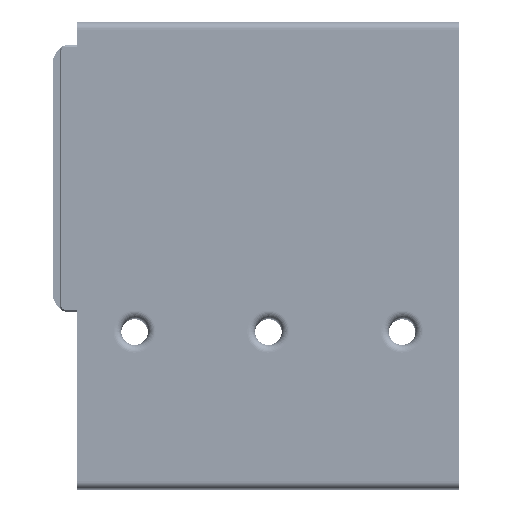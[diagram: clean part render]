
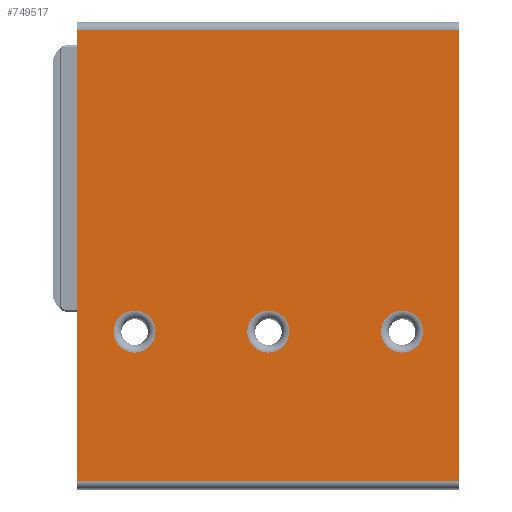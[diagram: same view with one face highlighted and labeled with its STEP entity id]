
A CAD part, top view. The second image highlights one B-rep face of the part: STEP entity #749517.
In plain terms, the highlighted planar face has unit normal (0, 0, 1) as drawn and (1, 0, 0) by its records, which use the part's own axes.
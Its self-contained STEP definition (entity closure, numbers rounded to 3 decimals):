
#745602 = VERTEX_POINT('',#745603);
#745603 = CARTESIAN_POINT('',(82.5,84.,0.));
#745610 = EDGE_CURVE('',#745611,#745602,#745613,.T.);
#745611 = VERTEX_POINT('',#745612);
#745612 = CARTESIAN_POINT('',(82.5,-34.166,0.));
#745613 = LINE('',#745614,#745615);
#745614 = CARTESIAN_POINT('',(82.5,-36.166,0.));
#745615 = VECTOR('',#745616,1.);
#745616 = DIRECTION('',(0.,1.,0.));
#745723 = VERTEX_POINT('',#745724);
#745724 = CARTESIAN_POINT('',(82.5,84.,100.));
#745731 = EDGE_CURVE('',#745602,#745723,#745732,.T.);
#745732 = LINE('',#745733,#745734);
#745733 = CARTESIAN_POINT('',(82.5,84.,0.));
#745734 = VECTOR('',#745735,1.);
#745735 = DIRECTION('',(0.,0.,1.));
#746818 = VERTEX_POINT('',#746819);
#746819 = CARTESIAN_POINT('',(82.5,-34.166,100.));
#746826 = EDGE_CURVE('',#746818,#745723,#746827,.T.);
#746827 = LINE('',#746828,#746829);
#746828 = CARTESIAN_POINT('',(82.5,-36.166,100.));
#746829 = VECTOR('',#746830,1.);
#746830 = DIRECTION('',(0.,1.,0.));
#749517 = ADVANCED_FACE('',(#749518,#749529,#749540,#749551),#749562,.F.
  );
#749518 = FACE_BOUND('',#749519,.F.);
#749519 = EDGE_LOOP('',(#749520));
#749520 = ORIENTED_EDGE('',*,*,#749521,.F.);
#749521 = EDGE_CURVE('',#749522,#749522,#749524,.T.);
#749522 = VERTEX_POINT('',#749523);
#749523 = CARTESIAN_POINT('',(82.5,-0.5,85.));
#749524 = CIRCLE('',#749525,5.5);
#749525 = AXIS2_PLACEMENT_3D('',#749526,#749527,#749528);
#749526 = CARTESIAN_POINT('',(82.5,5.,85.));
#749527 = DIRECTION('',(-1.,0.,0.));
#749528 = DIRECTION('',(0.,-1.,0.));
#749529 = FACE_BOUND('',#749530,.F.);
#749530 = EDGE_LOOP('',(#749531,#749532,#749538,#749539));
#749531 = ORIENTED_EDGE('',*,*,#745610,.F.);
#749532 = ORIENTED_EDGE('',*,*,#749533,.T.);
#749533 = EDGE_CURVE('',#745611,#746818,#749534,.T.);
#749534 = LINE('',#749535,#749536);
#749535 = CARTESIAN_POINT('',(82.5,-34.166,0.));
#749536 = VECTOR('',#749537,1.);
#749537 = DIRECTION('',(0.,0.,1.));
#749538 = ORIENTED_EDGE('',*,*,#746826,.T.);
#749539 = ORIENTED_EDGE('',*,*,#745731,.F.);
#749540 = FACE_BOUND('',#749541,.F.);
#749541 = EDGE_LOOP('',(#749542));
#749542 = ORIENTED_EDGE('',*,*,#749543,.F.);
#749543 = EDGE_CURVE('',#749544,#749544,#749546,.T.);
#749544 = VERTEX_POINT('',#749545);
#749545 = CARTESIAN_POINT('',(82.5,-0.5,50.));
#749546 = CIRCLE('',#749547,5.5);
#749547 = AXIS2_PLACEMENT_3D('',#749548,#749549,#749550);
#749548 = CARTESIAN_POINT('',(82.5,5.,50.));
#749549 = DIRECTION('',(-1.,0.,0.));
#749550 = DIRECTION('',(0.,-1.,0.));
#749551 = FACE_BOUND('',#749552,.F.);
#749552 = EDGE_LOOP('',(#749553));
#749553 = ORIENTED_EDGE('',*,*,#749554,.F.);
#749554 = EDGE_CURVE('',#749555,#749555,#749557,.T.);
#749555 = VERTEX_POINT('',#749556);
#749556 = CARTESIAN_POINT('',(82.5,-0.5,15.));
#749557 = CIRCLE('',#749558,5.5);
#749558 = AXIS2_PLACEMENT_3D('',#749559,#749560,#749561);
#749559 = CARTESIAN_POINT('',(82.5,5.,15.));
#749560 = DIRECTION('',(-1.,0.,0.));
#749561 = DIRECTION('',(0.,-1.,0.));
#749562 = PLANE('',#749563);
#749563 = AXIS2_PLACEMENT_3D('',#749564,#749565,#749566);
#749564 = CARTESIAN_POINT('',(82.5,-36.166,0.));
#749565 = DIRECTION('',(-1.,0.,0.));
#749566 = DIRECTION('',(0.,1.,0.));
